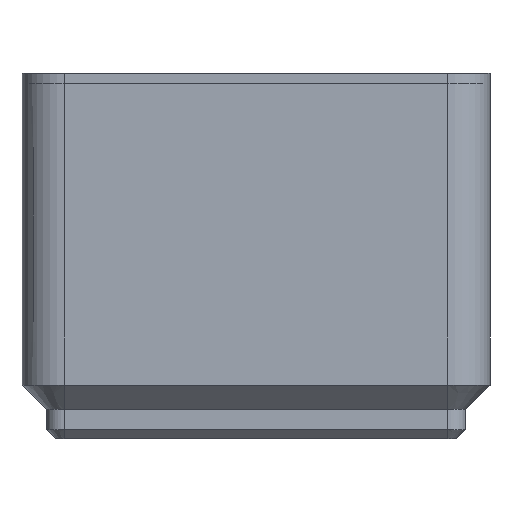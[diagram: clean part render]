
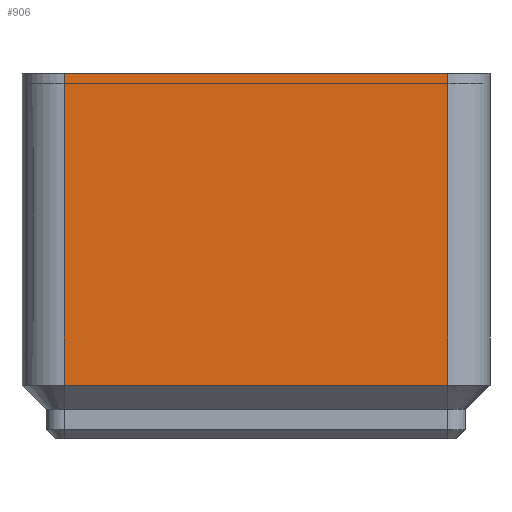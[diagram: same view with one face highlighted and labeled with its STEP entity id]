
A CAD part, left-side view. The second image highlights one B-rep face of the part: STEP entity #906.
In plain terms, the highlighted planar face has unit normal (-1, 0, 0).
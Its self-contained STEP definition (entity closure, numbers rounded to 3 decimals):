
#100 = PLANE('',#101);
#101 = AXIS2_PLACEMENT_3D('',#102,#103,#104);
#102 = CARTESIAN_POINT('',(-40.675,-17.,3.675));
#103 = DIRECTION('',(0.707,0.,0.707)
  );
#104 = DIRECTION('',(0.,-1.,0.));
#307 = VERTEX_POINT('',#308);
#308 = CARTESIAN_POINT('',(-41.75,-17.,4.75));
#332 = EDGE_CURVE('',#307,#333,#335,.T.);
#333 = VERTEX_POINT('',#334);
#334 = CARTESIAN_POINT('',(-41.75,17.,4.75));
#335 = SURFACE_CURVE('',#336,(#340,#347),.PCURVE_S1.);
#336 = LINE('',#337,#338);
#337 = CARTESIAN_POINT('',(-41.75,-17.,4.75));
#338 = VECTOR('',#339,1.);
#339 = DIRECTION('',(0.,1.,0.));
#340 = PCURVE('',#100,#341);
#341 = DEFINITIONAL_REPRESENTATION('',(#342),#346);
#342 = LINE('',#343,#344);
#343 = CARTESIAN_POINT('',(-0.,-1.52));
#344 = VECTOR('',#345,1.);
#345 = DIRECTION('',(-1.,0.));
#346 = ( GEOMETRIC_REPRESENTATION_CONTEXT(2) 
PARAMETRIC_REPRESENTATION_CONTEXT() REPRESENTATION_CONTEXT('2D SPACE',''
  ) );
#347 = PCURVE('',#348,#353);
#348 = PLANE('',#349);
#349 = AXIS2_PLACEMENT_3D('',#350,#351,#352);
#350 = CARTESIAN_POINT('',(-41.75,-17.,2.6));
#351 = DIRECTION('',(-1.,0.,0.));
#352 = DIRECTION('',(0.,1.,0.));
#353 = DEFINITIONAL_REPRESENTATION('',(#354),#358);
#354 = LINE('',#355,#356);
#355 = CARTESIAN_POINT('',(0.,-2.15));
#356 = VECTOR('',#357,1.);
#357 = DIRECTION('',(1.,0.));
#358 = ( GEOMETRIC_REPRESENTATION_CONTEXT(2) 
PARAMETRIC_REPRESENTATION_CONTEXT() REPRESENTATION_CONTEXT('2D SPACE',''
  ) );
#737 = CYLINDRICAL_SURFACE('',#738,3.75);
#738 = AXIS2_PLACEMENT_3D('',#739,#740,#741);
#739 = CARTESIAN_POINT('',(-38.,17.,2.6));
#740 = DIRECTION('',(0.,0.,-1.));
#741 = DIRECTION('',(-1.,0.,0.));
#893 = CYLINDRICAL_SURFACE('',#894,3.75);
#894 = AXIS2_PLACEMENT_3D('',#895,#896,#897);
#895 = CARTESIAN_POINT('',(-38.,-17.,2.6));
#896 = DIRECTION('',(0.,0.,-1.));
#897 = DIRECTION('',(-1.,0.,0.));
#906 = ADVANCED_FACE('',(#907),#348,.T.);
#907 = FACE_BOUND('',#908,.T.);
#908 = EDGE_LOOP('',(#909,#910,#933,#961));
#909 = ORIENTED_EDGE('',*,*,#332,.F.);
#910 = ORIENTED_EDGE('',*,*,#911,.T.);
#911 = EDGE_CURVE('',#307,#912,#914,.T.);
#912 = VERTEX_POINT('',#913);
#913 = CARTESIAN_POINT('',(-41.75,-17.,32.4));
#914 = SURFACE_CURVE('',#915,(#919,#926),.PCURVE_S1.);
#915 = LINE('',#916,#917);
#916 = CARTESIAN_POINT('',(-41.75,-17.,4.75));
#917 = VECTOR('',#918,1.);
#918 = DIRECTION('',(0.,0.,1.));
#919 = PCURVE('',#348,#920);
#920 = DEFINITIONAL_REPRESENTATION('',(#921),#925);
#921 = LINE('',#922,#923);
#922 = CARTESIAN_POINT('',(0.,-2.15));
#923 = VECTOR('',#924,1.);
#924 = DIRECTION('',(0.,-1.));
#925 = ( GEOMETRIC_REPRESENTATION_CONTEXT(2) 
PARAMETRIC_REPRESENTATION_CONTEXT() REPRESENTATION_CONTEXT('2D SPACE',''
  ) );
#926 = PCURVE('',#893,#927);
#927 = DEFINITIONAL_REPRESENTATION('',(#928),#932);
#928 = LINE('',#929,#930);
#929 = CARTESIAN_POINT('',(6.283,-2.15));
#930 = VECTOR('',#931,1.);
#931 = DIRECTION('',(0.,-1.));
#932 = ( GEOMETRIC_REPRESENTATION_CONTEXT(2) 
PARAMETRIC_REPRESENTATION_CONTEXT() REPRESENTATION_CONTEXT('2D SPACE',''
  ) );
#933 = ORIENTED_EDGE('',*,*,#934,.T.);
#934 = EDGE_CURVE('',#912,#935,#937,.T.);
#935 = VERTEX_POINT('',#936);
#936 = CARTESIAN_POINT('',(-41.75,17.,32.4));
#937 = SURFACE_CURVE('',#938,(#942,#949),.PCURVE_S1.);
#938 = LINE('',#939,#940);
#939 = CARTESIAN_POINT('',(-41.75,0.,32.4));
#940 = VECTOR('',#941,1.);
#941 = DIRECTION('',(0.,1.,0.));
#942 = PCURVE('',#348,#943);
#943 = DEFINITIONAL_REPRESENTATION('',(#944),#948);
#944 = LINE('',#945,#946);
#945 = CARTESIAN_POINT('',(17.,-29.8));
#946 = VECTOR('',#947,1.);
#947 = DIRECTION('',(1.,0.));
#948 = ( GEOMETRIC_REPRESENTATION_CONTEXT(2) 
PARAMETRIC_REPRESENTATION_CONTEXT() REPRESENTATION_CONTEXT('2D SPACE',''
  ) );
#949 = PCURVE('',#950,#955);
#950 = PLANE('',#951);
#951 = AXIS2_PLACEMENT_3D('',#952,#953,#954);
#952 = CARTESIAN_POINT('',(0.,0.,32.4)
  );
#953 = DIRECTION('',(0.,0.,1.));
#954 = DIRECTION('',(1.,0.,-0.));
#955 = DEFINITIONAL_REPRESENTATION('',(#956),#960);
#956 = LINE('',#957,#958);
#957 = CARTESIAN_POINT('',(-41.75,0.));
#958 = VECTOR('',#959,1.);
#959 = DIRECTION('',(0.,1.));
#960 = ( GEOMETRIC_REPRESENTATION_CONTEXT(2) 
PARAMETRIC_REPRESENTATION_CONTEXT() REPRESENTATION_CONTEXT('2D SPACE',''
  ) );
#961 = ORIENTED_EDGE('',*,*,#962,.T.);
#962 = EDGE_CURVE('',#935,#333,#963,.T.);
#963 = SURFACE_CURVE('',#964,(#968,#975),.PCURVE_S1.);
#964 = LINE('',#965,#966);
#965 = CARTESIAN_POINT('',(-41.75,17.,32.4));
#966 = VECTOR('',#967,1.);
#967 = DIRECTION('',(0.,0.,-1.));
#968 = PCURVE('',#348,#969);
#969 = DEFINITIONAL_REPRESENTATION('',(#970),#974);
#970 = LINE('',#971,#972);
#971 = CARTESIAN_POINT('',(34.,-29.8));
#972 = VECTOR('',#973,1.);
#973 = DIRECTION('',(0.,1.));
#974 = ( GEOMETRIC_REPRESENTATION_CONTEXT(2) 
PARAMETRIC_REPRESENTATION_CONTEXT() REPRESENTATION_CONTEXT('2D SPACE',''
  ) );
#975 = PCURVE('',#737,#976);
#976 = DEFINITIONAL_REPRESENTATION('',(#977),#981);
#977 = LINE('',#978,#979);
#978 = CARTESIAN_POINT('',(6.283,-29.8));
#979 = VECTOR('',#980,1.);
#980 = DIRECTION('',(0.,1.));
#981 = ( GEOMETRIC_REPRESENTATION_CONTEXT(2) 
PARAMETRIC_REPRESENTATION_CONTEXT() REPRESENTATION_CONTEXT('2D SPACE',''
  ) );
